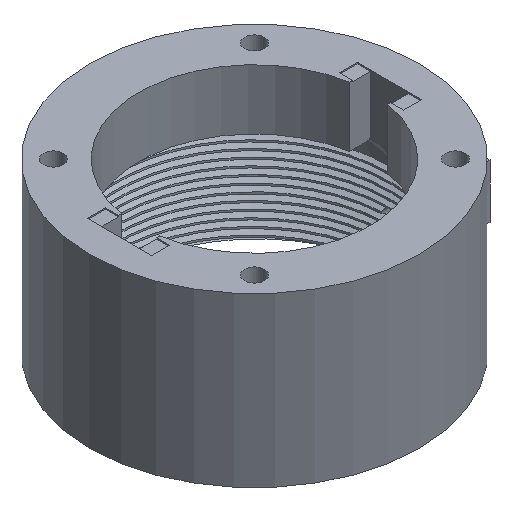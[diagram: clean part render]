
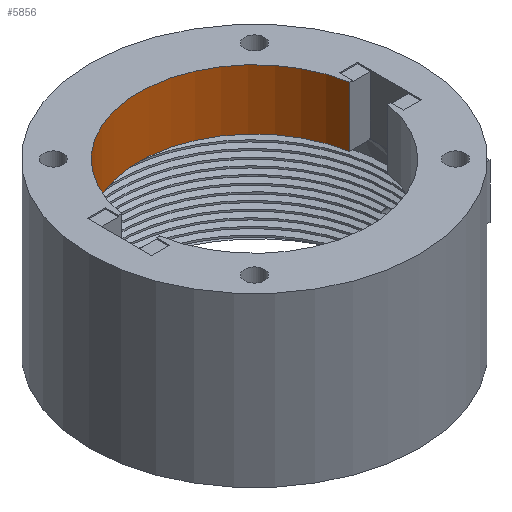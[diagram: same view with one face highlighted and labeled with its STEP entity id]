
A CAD part, isometric view. The second image highlights one B-rep face of the part: STEP entity #5856.
In plain terms, the highlighted cylindrical face has radius 7.7 mm (diameter 15.4 mm), a partial arc.
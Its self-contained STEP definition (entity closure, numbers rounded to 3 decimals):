
#66 = PLANE('',#67);
#67 = AXIS2_PLACEMENT_3D('',#68,#69,#70);
#68 = CARTESIAN_POINT('',(0.,0.,0.));
#69 = DIRECTION('',(0.,0.,1.));
#70 = DIRECTION('',(1.,0.,-0.));
#1711 = EDGE_CURVE('',#1712,#1714,#1716,.T.);
#1712 = VERTEX_POINT('',#1713);
#1713 = CARTESIAN_POINT('',(7.593,1.28,0.));
#1714 = VERTEX_POINT('',#1715);
#1715 = CARTESIAN_POINT('',(-7.593,1.28,0.));
#1716 = SURFACE_CURVE('',#1717,(#1722,#1729),.PCURVE_S1.);
#1717 = CIRCLE('',#1718,7.7);
#1718 = AXIS2_PLACEMENT_3D('',#1719,#1720,#1721);
#1719 = CARTESIAN_POINT('',(0.,0.,0.));
#1720 = DIRECTION('',(0.,0.,1.));
#1721 = DIRECTION('',(1.,0.,-0.));
#1722 = PCURVE('',#66,#1723);
#1723 = DEFINITIONAL_REPRESENTATION('',(#1724),#1728);
#1724 = CIRCLE('',#1725,7.7);
#1725 = AXIS2_PLACEMENT_2D('',#1726,#1727);
#1726 = CARTESIAN_POINT('',(0.,0.));
#1727 = DIRECTION('',(1.,0.));
#1728 = ( GEOMETRIC_REPRESENTATION_CONTEXT(2) 
PARAMETRIC_REPRESENTATION_CONTEXT() REPRESENTATION_CONTEXT('2D SPACE',''
  ) );
#1729 = PCURVE('',#1730,#1735);
#1730 = CYLINDRICAL_SURFACE('',#1731,7.7);
#1731 = AXIS2_PLACEMENT_3D('',#1732,#1733,#1734);
#1732 = CARTESIAN_POINT('',(0.,0.,-11.21));
#1733 = DIRECTION('',(0.,0.,1.));
#1734 = DIRECTION('',(1.,0.,-0.));
#1735 = DEFINITIONAL_REPRESENTATION('',(#1736),#1740);
#1736 = LINE('',#1737,#1738);
#1737 = CARTESIAN_POINT('',(0.,11.21));
#1738 = VECTOR('',#1739,1.);
#1739 = DIRECTION('',(1.,0.));
#1740 = ( GEOMETRIC_REPRESENTATION_CONTEXT(2) 
PARAMETRIC_REPRESENTATION_CONTEXT() REPRESENTATION_CONTEXT('2D SPACE',''
  ) );
#1758 = PLANE('',#1759);
#1759 = AXIS2_PLACEMENT_3D('',#1760,#1761,#1762);
#1760 = CARTESIAN_POINT('',(7.2,1.28,-4.));
#1761 = DIRECTION('',(0.,1.,0.));
#1762 = DIRECTION('',(0.,0.,1.));
#2373 = PLANE('',#2374);
#2374 = AXIS2_PLACEMENT_3D('',#2375,#2376,#2377);
#2375 = CARTESIAN_POINT('',(-9.,1.28,-4.));
#2376 = DIRECTION('',(0.,1.,0.));
#2377 = DIRECTION('',(0.,0.,1.));
#5856 = ADVANCED_FACE('',(#5857),#1730,.F.);
#5857 = FACE_BOUND('',#5858,.F.);
#5858 = EDGE_LOOP('',(#5859,#5880,#5909,#5928));
#5859 = ORIENTED_EDGE('',*,*,#5860,.F.);
#5860 = EDGE_CURVE('',#5861,#1712,#5863,.T.);
#5861 = VERTEX_POINT('',#5862);
#5862 = CARTESIAN_POINT('',(7.593,1.28,-4.));
#5863 = SURFACE_CURVE('',#5864,(#5868,#5874),.PCURVE_S1.);
#5864 = LINE('',#5865,#5866);
#5865 = CARTESIAN_POINT('',(7.593,1.28,-11.21));
#5866 = VECTOR('',#5867,1.);
#5867 = DIRECTION('',(0.,0.,1.));
#5868 = PCURVE('',#1730,#5869);
#5869 = DEFINITIONAL_REPRESENTATION('',(#5870),#5873);
#5870 = B_SPLINE_CURVE_WITH_KNOTS('',1,(#5871,#5872),.UNSPECIFIED.,.F.,
  .F.,(2,2),(7.21,11.21),.PIECEWISE_BEZIER_KNOTS.);
#5871 = CARTESIAN_POINT('',(0.167,7.21));
#5872 = CARTESIAN_POINT('',(0.167,11.21));
#5873 = ( GEOMETRIC_REPRESENTATION_CONTEXT(2) 
PARAMETRIC_REPRESENTATION_CONTEXT() REPRESENTATION_CONTEXT('2D SPACE',''
  ) );
#5874 = PCURVE('',#1758,#5875);
#5875 = DEFINITIONAL_REPRESENTATION('',(#5876),#5879);
#5876 = B_SPLINE_CURVE_WITH_KNOTS('',1,(#5877,#5878),.UNSPECIFIED.,.F.,
  .F.,(2,2),(7.21,11.21),.PIECEWISE_BEZIER_KNOTS.);
#5877 = CARTESIAN_POINT('',(0.,0.393));
#5878 = CARTESIAN_POINT('',(4.,0.393));
#5879 = ( GEOMETRIC_REPRESENTATION_CONTEXT(2) 
PARAMETRIC_REPRESENTATION_CONTEXT() REPRESENTATION_CONTEXT('2D SPACE',''
  ) );
#5880 = ORIENTED_EDGE('',*,*,#5881,.T.);
#5881 = EDGE_CURVE('',#5861,#5882,#5884,.T.);
#5882 = VERTEX_POINT('',#5883);
#5883 = CARTESIAN_POINT('',(-7.593,1.28,-4.));
#5884 = SURFACE_CURVE('',#5885,(#5890,#5897),.PCURVE_S1.);
#5885 = CIRCLE('',#5886,7.7);
#5886 = AXIS2_PLACEMENT_3D('',#5887,#5888,#5889);
#5887 = CARTESIAN_POINT('',(0.,0.,-4.));
#5888 = DIRECTION('',(0.,0.,1.));
#5889 = DIRECTION('',(1.,0.,-0.));
#5890 = PCURVE('',#1730,#5891);
#5891 = DEFINITIONAL_REPRESENTATION('',(#5892),#5896);
#5892 = LINE('',#5893,#5894);
#5893 = CARTESIAN_POINT('',(0.,7.21));
#5894 = VECTOR('',#5895,1.);
#5895 = DIRECTION('',(1.,0.));
#5896 = ( GEOMETRIC_REPRESENTATION_CONTEXT(2) 
PARAMETRIC_REPRESENTATION_CONTEXT() REPRESENTATION_CONTEXT('2D SPACE',''
  ) );
#5897 = PCURVE('',#5898,#5903);
#5898 = PLANE('',#5899);
#5899 = AXIS2_PLACEMENT_3D('',#5900,#5901,#5902);
#5900 = CARTESIAN_POINT('',(0.,0.,-4.));
#5901 = DIRECTION('',(0.,0.,1.));
#5902 = DIRECTION('',(1.,0.,-0.));
#5903 = DEFINITIONAL_REPRESENTATION('',(#5904),#5908);
#5904 = CIRCLE('',#5905,7.7);
#5905 = AXIS2_PLACEMENT_2D('',#5906,#5907);
#5906 = CARTESIAN_POINT('',(0.,0.));
#5907 = DIRECTION('',(1.,0.));
#5908 = ( GEOMETRIC_REPRESENTATION_CONTEXT(2) 
PARAMETRIC_REPRESENTATION_CONTEXT() REPRESENTATION_CONTEXT('2D SPACE',''
  ) );
#5909 = ORIENTED_EDGE('',*,*,#5910,.T.);
#5910 = EDGE_CURVE('',#5882,#1714,#5911,.T.);
#5911 = SURFACE_CURVE('',#5912,(#5916,#5922),.PCURVE_S1.);
#5912 = LINE('',#5913,#5914);
#5913 = CARTESIAN_POINT('',(-7.593,1.28,-11.21));
#5914 = VECTOR('',#5915,1.);
#5915 = DIRECTION('',(0.,0.,1.));
#5916 = PCURVE('',#1730,#5917);
#5917 = DEFINITIONAL_REPRESENTATION('',(#5918),#5921);
#5918 = B_SPLINE_CURVE_WITH_KNOTS('',1,(#5919,#5920),.UNSPECIFIED.,.F.,
  .F.,(2,2),(7.21,11.21),.PIECEWISE_BEZIER_KNOTS.);
#5919 = CARTESIAN_POINT('',(2.975,7.21));
#5920 = CARTESIAN_POINT('',(2.975,11.21));
#5921 = ( GEOMETRIC_REPRESENTATION_CONTEXT(2) 
PARAMETRIC_REPRESENTATION_CONTEXT() REPRESENTATION_CONTEXT('2D SPACE',''
  ) );
#5922 = PCURVE('',#2373,#5923);
#5923 = DEFINITIONAL_REPRESENTATION('',(#5924),#5927);
#5924 = B_SPLINE_CURVE_WITH_KNOTS('',1,(#5925,#5926),.UNSPECIFIED.,.F.,
  .F.,(2,2),(7.21,11.21),.PIECEWISE_BEZIER_KNOTS.);
#5925 = CARTESIAN_POINT('',(0.,1.407));
#5926 = CARTESIAN_POINT('',(4.,1.407));
#5927 = ( GEOMETRIC_REPRESENTATION_CONTEXT(2) 
PARAMETRIC_REPRESENTATION_CONTEXT() REPRESENTATION_CONTEXT('2D SPACE',''
  ) );
#5928 = ORIENTED_EDGE('',*,*,#1711,.F.);
